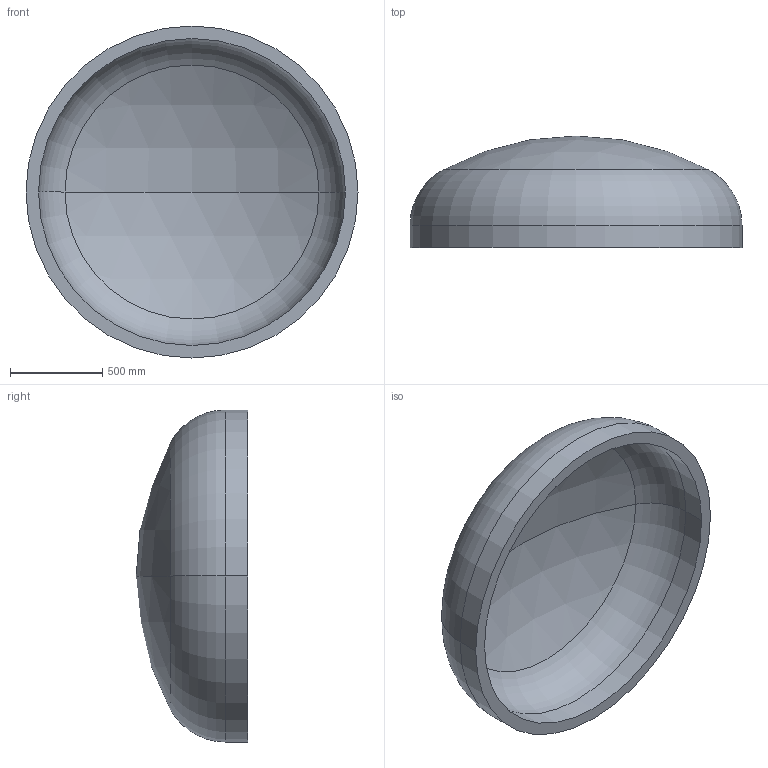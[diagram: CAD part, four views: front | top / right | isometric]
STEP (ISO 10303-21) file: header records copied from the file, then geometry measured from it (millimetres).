
FILE_DESCRIPTION (( 'STEP AP203' ), '1' );
FILE_NAME ('DIN 28013 Korbbogenform_-_Boden DIN 28013 - 1800 x 120 - I - s=68.step', '2016-07-01T12:37:44', ( '' ), ( '' ), 'SwSTEP 2.0', 'SolidWorks 2013', '' );
FILE_SCHEMA (( 'CONFIG_CONTROL_DESIGN' ));
Length unit declared in the file: millimetre
Products named in the file (1): DIN 28013 Korbbogenform_-_Boden DIN 28013 - 1800 x 120 - I - s=68
Bounding box: 1800 x 604.78 x 1800 mm (x, y, z)
Volume: 272221488.2 mm3; surface area: 8386200.8 mm2
Topology: 1 solids, 1 shells, 13 faces, 24 edges, 14 vertices
Faces by surface type: torus 4, cylinder 4, sphere 4, plane 1
Entity records: 407 total; most frequent: DIRECTION 72, CARTESIAN_POINT 52, ORIENTED_EDGE 48, AXIS2_PLACEMENT_3D 34, EDGE_CURVE 24, CIRCLE 20, EDGE_LOOP 14, VERTEX_POINT 14
